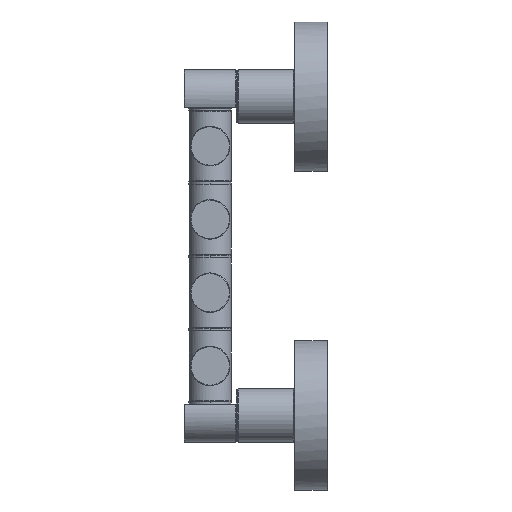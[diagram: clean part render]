
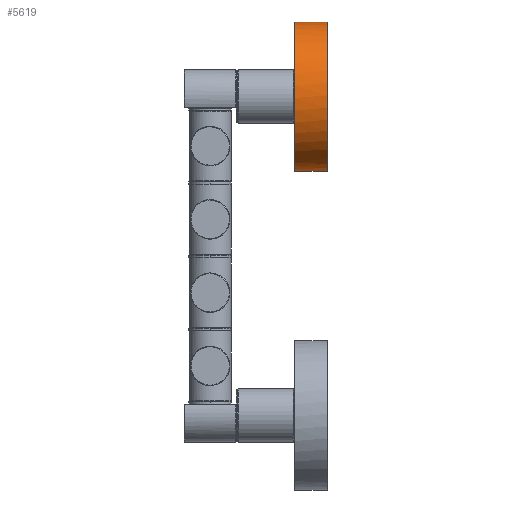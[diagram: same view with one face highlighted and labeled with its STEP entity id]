
A CAD part, left-side view. The second image highlights one B-rep face of the part: STEP entity #5619.
In plain terms, the highlighted cylindrical face has radius 26.5 mm (diameter 53 mm), a partial arc.
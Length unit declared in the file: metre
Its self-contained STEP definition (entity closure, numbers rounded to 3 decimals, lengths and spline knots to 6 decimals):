
#5324=VERTEX_POINT('',#5325);
#5325=CARTESIAN_POINT('',(-0.0,0.0118,0.0265));
#5332=VERTEX_POINT('',#5333);
#5333=CARTESIAN_POINT('',(0.0,0.0118,-0.0265));
#5366=VERTEX_POINT('',#5367);
#5367=CARTESIAN_POINT('',(-0.0,0.0002,0.0265));
#5372=CARTESIAN_POINT('',(0.0,0.0002,-0.0265));
#5374=EDGE_CURVE('',#5375,#5366,#5377,.T.);
#5375=VERTEX_POINT('',#5376);
#5376=CARTESIAN_POINT('',(0.0,0.0002,-0.0265));
#5377=(B_SPLINE_CURVE(3,(#5372,#5378,#5379,#5380),.UNSPECIFIED.,.F.,.U.)B_SPLINE_CURVE_WITH_KNOTS(
  (4,4),(0.0,1.0),.UNSPECIFIED.)BOUNDED_CURVE()CURVE()GEOMETRIC_REPRESENTATION_ITEM(
  )RATIONAL_B_SPLINE_CURVE((1.0,0.333,0.333,1.0)
  )REPRESENTATION_ITEM(''));
#5378=CARTESIAN_POINT('',(-0.053,0.0002,-0.0265));
#5379=CARTESIAN_POINT('',(-0.053,0.0002,0.0265));
#5380=CARTESIAN_POINT('',(0.0,0.0002,0.0265));
#5619=ADVANCED_FACE('',(#5625),#5620,.T.);
#5620=CYLINDRICAL_SURFACE('',#5621,0.0265);
#5621=AXIS2_PLACEMENT_3D('',#5622,#5623,#5624);
#5622=CARTESIAN_POINT('',(0.0,0.012,0.0));
#5623=DIRECTION('',(0.0,1.0,0.0));
#5624=DIRECTION('',(0.,0.0,-1.0));
#5625=FACE_OUTER_BOUND('',#5626,.T.);
#5626=EDGE_LOOP('',(#5627,#5628,#5634,#5641));
#5627=ORIENTED_EDGE('',*,*,#5374,.T.);
#5628=ORIENTED_EDGE('',*,*,#5629,.T.);
#5629=EDGE_CURVE('',#5366,#5324,#5630,.T.);
#5630=LINE('',#5631,#5632);
#5631=CARTESIAN_POINT('',(-0.0,0.012,0.0265));
#5632=VECTOR('',#5633,1.0);
#5633=DIRECTION('',(0.0,1.0,0.0));
#5634=ORIENTED_EDGE('',*,*,#5636,.T.);
#5635=CARTESIAN_POINT('',(0.0,0.0118,0.0265));
#5636=EDGE_CURVE('',#5324,#5332,#5637,.T.);
#5637=(B_SPLINE_CURVE(3,(#5635,#5638,#5639,#5640),.UNSPECIFIED.,.F.,.U.)B_SPLINE_CURVE_WITH_KNOTS(
  (4,4),(0.0,1.0),.UNSPECIFIED.)BOUNDED_CURVE()CURVE()GEOMETRIC_REPRESENTATION_ITEM(
  )RATIONAL_B_SPLINE_CURVE((1.0,0.333,0.333,1.0)
  )REPRESENTATION_ITEM(''));
#5638=CARTESIAN_POINT('',(-0.053,0.0118,0.0265));
#5639=CARTESIAN_POINT('',(-0.053,0.0118,-0.0265));
#5640=CARTESIAN_POINT('',(0.0,0.0118,-0.0265));
#5641=ORIENTED_EDGE('',*,*,#5642,.F.);
#5642=EDGE_CURVE('',#5375,#5332,#5643,.T.);
#5643=LINE('',#5644,#5645);
#5644=CARTESIAN_POINT('',(0.0,0.012,-0.0265));
#5645=VECTOR('',#5646,1.0);
#5646=DIRECTION('',(0.0,1.0,0.0));
